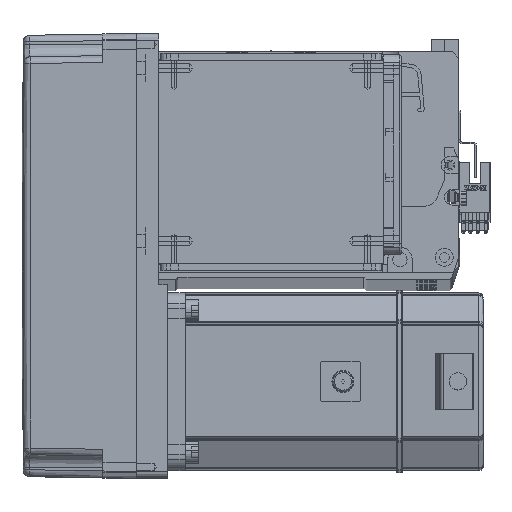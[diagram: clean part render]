
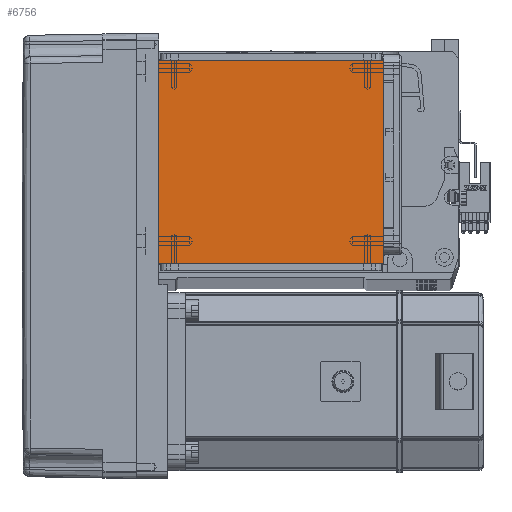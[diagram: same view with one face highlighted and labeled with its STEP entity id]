
A CAD part, top view. The second image highlights one B-rep face of the part: STEP entity #6756.
In plain terms, the highlighted planar face has unit normal (0, 0, 1).
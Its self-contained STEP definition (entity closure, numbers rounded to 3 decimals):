
#1945 = ORIENTED_EDGE ( 'NONE', *, *, #51457, .T. ) ;
#6756 = ADVANCED_FACE ( 'NONE', ( #35368 ), #11865, .T. ) ;
#8429 = CARTESIAN_POINT ( 'NONE',  ( 50.5, 111.5, 115. ) ) ;
#10705 = DIRECTION ( 'NONE',  ( 1., 0., 0. ) ) ;
#11329 = VECTOR ( 'NONE', #10705, 1000. ) ;
#11432 = DIRECTION ( 'NONE',  ( 0., 0., 1. ) ) ;
#11865 = PLANE ( 'NONE',  #28388 ) ;
#12288 = DIRECTION ( 'NONE',  ( -1., 0., 0. ) ) ;
#12835 = EDGE_LOOP ( 'NONE', ( #29055, #14328, #16673, #1945 ) ) ;
#14328 = ORIENTED_EDGE ( 'NONE', *, *, #28938, .T. ) ;
#14620 = CARTESIAN_POINT ( 'NONE',  ( -50.5, 20., 115. ) ) ;
#16673 = ORIENTED_EDGE ( 'NONE', *, *, #64794, .F. ) ;
#17324 = CARTESIAN_POINT ( 'NONE',  ( -50.5, 122., 115. ) ) ;
#17546 = DIRECTION ( 'NONE',  ( 0., -1., 0. ) ) ;
#19567 = CARTESIAN_POINT ( 'NONE',  ( -50.5, 111.5, 115. ) ) ;
#20383 = CARTESIAN_POINT ( 'NONE',  ( -70.004, 111.5, 115. ) ) ;
#22425 = VERTEX_POINT ( 'NONE', #25457 ) ;
#22812 = CARTESIAN_POINT ( 'NONE',  ( -70.004, 20., 115. ) ) ;
#25457 = CARTESIAN_POINT ( 'NONE',  ( 50.5, 20., 115. ) ) ;
#25910 = DIRECTION ( 'NONE',  ( 1., 0., 0. ) ) ;
#28388 = AXIS2_PLACEMENT_3D ( 'NONE', #36250, #11432, #25910 ) ;
#28938 = EDGE_CURVE ( 'NONE', #64459, #59754, #41434, .T. ) ;
#29055 = ORIENTED_EDGE ( 'NONE', *, *, #56084, .F. ) ;
#30340 = VECTOR ( 'NONE', #12288, 1000. ) ;
#31002 = LINE ( 'NONE', #20383, #11329 ) ;
#31737 = VERTEX_POINT ( 'NONE', #8429 ) ;
#34637 = CARTESIAN_POINT ( 'NONE',  ( 50.5, 122., 115. ) ) ;
#35368 = FACE_OUTER_BOUND ( 'NONE', #12835, .T. ) ;
#36250 = CARTESIAN_POINT ( 'NONE',  ( 0., 0., 115. ) ) ;
#37536 = LINE ( 'NONE', #34637, #44527 ) ;
#41434 = LINE ( 'NONE', #17324, #44534 ) ;
#43639 = LINE ( 'NONE', #22812, #30340 ) ;
#44527 = VECTOR ( 'NONE', #44674, 1000. ) ;
#44534 = VECTOR ( 'NONE', #17546, 1000. ) ;
#44674 = DIRECTION ( 'NONE',  ( 0., 1., 0. ) ) ;
#51457 = EDGE_CURVE ( 'NONE', #22425, #31737, #37536, .T. ) ;
#56084 = EDGE_CURVE ( 'NONE', #64459, #31737, #31002, .T. ) ;
#59754 = VERTEX_POINT ( 'NONE', #14620 ) ;
#64459 = VERTEX_POINT ( 'NONE', #19567 ) ;
#64794 = EDGE_CURVE ( 'NONE', #22425, #59754, #43639, .T. ) ;
